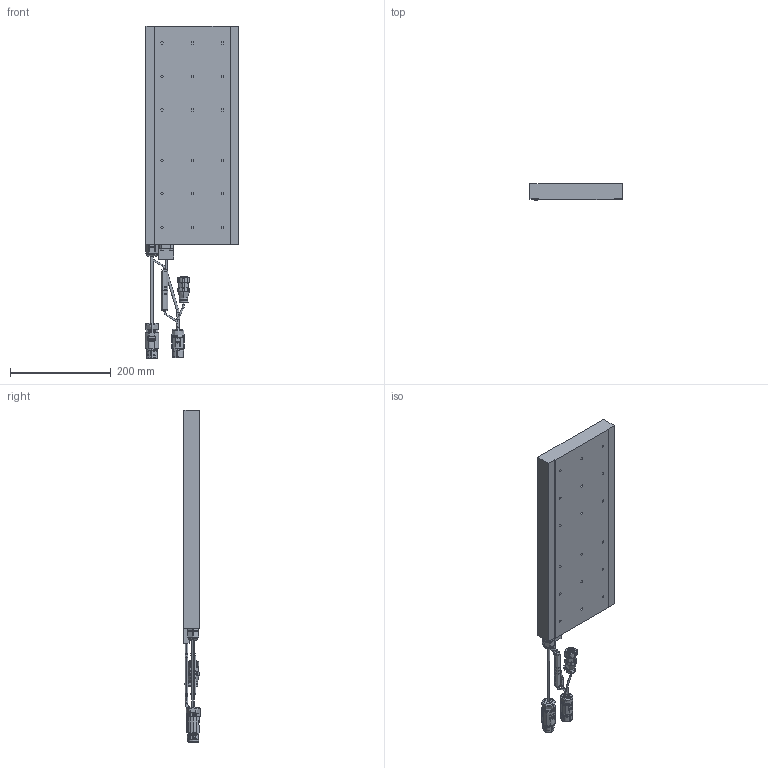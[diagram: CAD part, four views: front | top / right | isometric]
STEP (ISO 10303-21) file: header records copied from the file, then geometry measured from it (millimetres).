
FILE_DESCRIPTION((''),'2;1');
FILE_NAME('LDC-C150400-DHT11_ASM','2009-04-15T',('Freds'),('Rockwell Automation'),'PRO/ENGINEER BY PARAMETRIC TECHNOLOGY CORPORATION, 2004490','PRO/ENGINEER BY PARAMETRIC TECHNOLOGY CORPORATION, 2004490','');
FILE_SCHEMA(('CONFIG_CONTROL_DESIGN'));
Products named in the file (15): LDC-C150400; 91787; LCHALL; HALLMODCAB; LCHALLMODULE_ASM; MSCS0503_SS; LDCCABLE; 808567; 805243; A805449; A805448; A805436; A805434; LDCCABLEASM_ASM; LDC-C150400-DHT11_ASM
Assembly tree (15 placements, depth 3):
  LDC-C150400-DHT11_ASM
    LDC-C150400
    91787
    LCHALLMODULE_ASM
      LCHALL
      HALLMODCAB
    MSCS0503_SS  x2
    LDCCABLEASM_ASM
      LDCCABLE
      808567
      805243
      A805449
      A805448
      A805436
      A805434
Bounding box: 186.6 x 31.94 x 660.69 mm (x, y, z)
Topology: 11 solids, 17 shells, 2460 faces, 6538 edges, 4231 vertices
Faces by surface type: plane 820, cylinder 742, torus 301, bspline 300, cone 166, sphere 96, extrusion 35
Entity records: 101233 total; most frequent: CARTESIAN_POINT 41413, ORIENTED_EDGE 12798, DIRECTION 12243, EDGE_CURVE 6402, AXIS2_PLACEMENT_3D 4855, VERTEX_POINT 4191, CIRCLE 2725, EDGE_LOOP 2625
